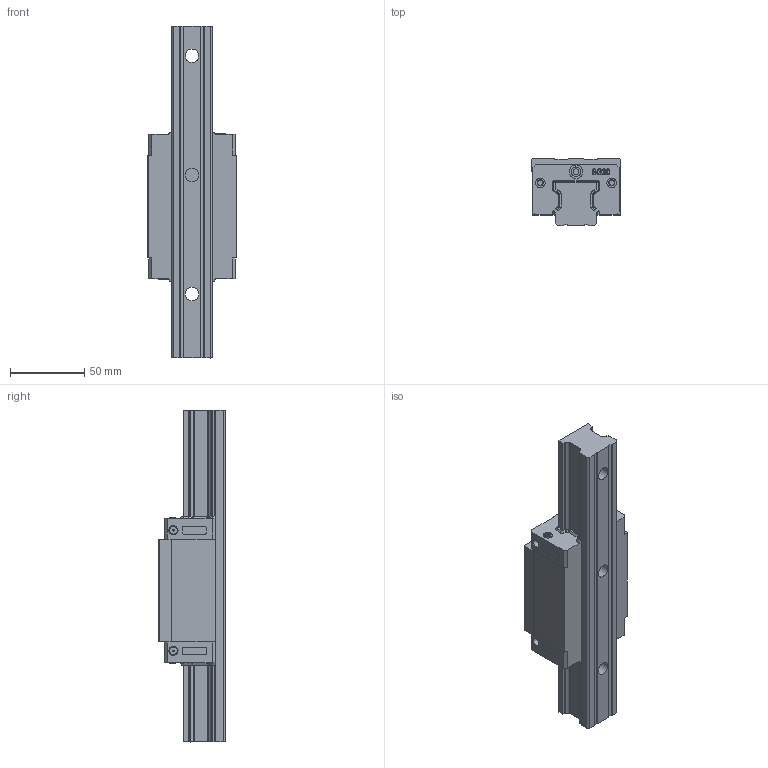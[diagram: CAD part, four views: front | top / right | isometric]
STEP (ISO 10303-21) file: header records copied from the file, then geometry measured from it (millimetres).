
FILE_DESCRIPTION(/* description */ (''),/* implementation_level */ '2;1');
FILE_NAME(/* name */ 'SGH30B.stp',/* time_stamp */ '2021-05-27T16:18:44+08:00',/* author */ (''),/* organization */ (''),/* preprocessor_version */ 'ST-DEVELOPER v15',/* originating_system */ 'SIEMENS PLM Software NX 8.5',/* authorisation */ '');
FILE_SCHEMA (('CONFIG_CONTROL_DESIGN'));
Length unit declared in the file: millimetre
Products named in the file (1): SGH30B
Bounding box: 60 x 45 x 223 mm (x, y, z)
Volume: 302237.2 mm3; surface area: 60761.5 mm2
Topology: 2 solids, 2 shells, 471 faces, 1276 edges, 856 vertices
Faces by surface type: plane 200, extrusion 122, cylinder 102, cone 47
Full cylindrical faces by diameter (mm): 1 x4, 3.5 x4, 4 x2, 4.1 x4, 5.2 x4, 6.5 x6, 6.8 x4, 9 x3, 9.1 x2, 14 x3
Entity records: 16447 total; most frequent: CARTESIAN_POINT 5121, ORIENTED_EDGE 2404, DIRECTION 2015, EDGE_CURVE 1202, VERTEX_POINT 829, VECTOR 741, AXIS2_PLACEMENT_3D 637, LINE 619
